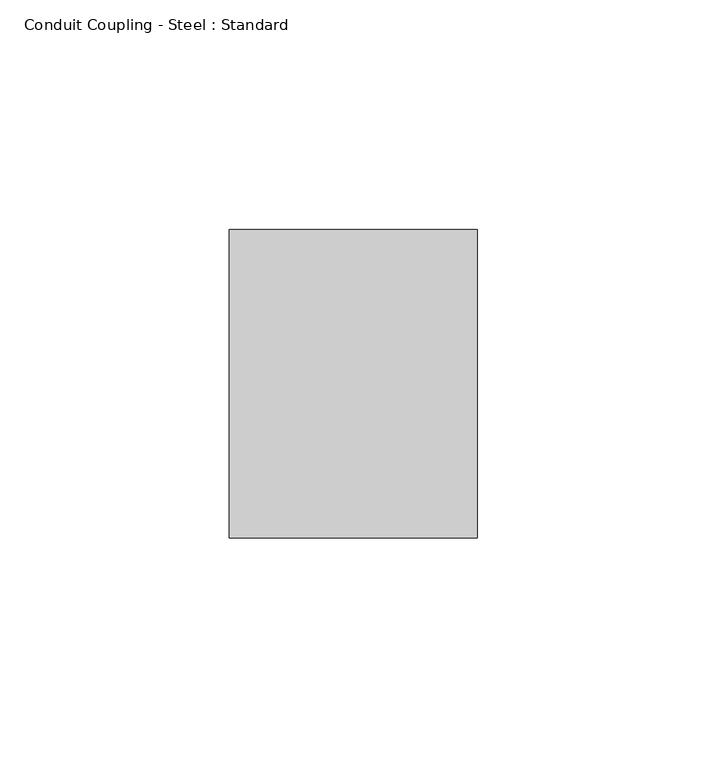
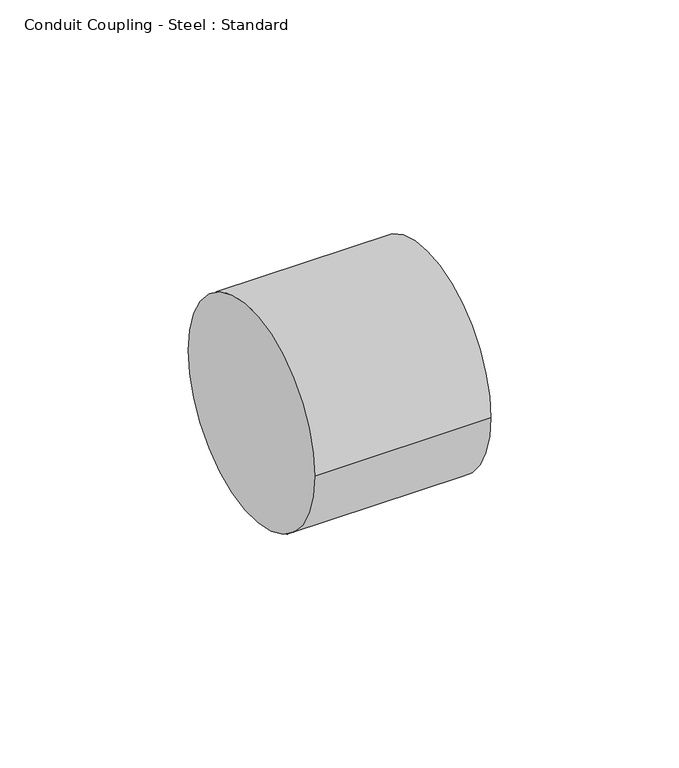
"""IFC4 building model written with IfcOpenShell, lengths in millimetres: cable carrier fitting geometry, Conduit Coupling - Steel : Standard."""

from ifc_helpers import new_model, si_unit, point, frame, origin, origin_2d, place, context, project, spatial, circle_curve, trimmed, segment, composite_curve, outline, extrude, source, transform, mapped, element, save


def conduit_coupling_steel_standard_671c5923(model_context):
    return source(origin(), model_context, "Body", "SweptSolid", [
        extrude(outline(composite_curve([segment(trimmed(circle_curve(origin_2d(), 33.655), [point((-33.655, 0.0))], [point((33.655, 0.0))], False, "CARTESIAN"), True, "CONTINUOUS"), segment(trimmed(circle_curve(origin_2d(), 33.655), [point((33.655, 0.0))], [point((-33.655, 0.0))], False, "CARTESIAN"), True, "CONTINUOUS")], self_intersect=False)), frame((0.0, 0.0, 0.0), z_axis=(1.0, 0.0, 0.0), x_axis=(0.0, 1.0, 0.0)), (0.0, 0.0, 1.0), 53.975),
    ])


if __name__ == "__main__":
    model = new_model("IFC4")
    model_context = context("Model", 3, world=origin())
    ifc_project = project(units=[si_unit("LENGTHUNIT", "METRE", prefix="MILLI")], contexts=[model_context])
    site = spatial("IfcSite", under=ifc_project)
    building = spatial("IfcBuilding", under=site)
    placement = place(None, origin())
    conduit_coupling_steel_standard_shape = conduit_coupling_steel_standard_671c5923(model_context)
    element("IfcCableCarrierFitting", 1, ObjectType="Conduit Coupling - Steel : Standard", at=placement, inside=building, context=model_context, shape_type="MappedRepresentation", body=[
        mapped(conduit_coupling_steel_standard_shape, transform((0.0, 0.0, 0.0), x_axis=(1.0, 0.0, 0.0), y_axis=(0.0, 1.0, 0.0), z_axis=(0.0, 0.0, 1.0))),
    ])
    save(model, "model.ifc")
